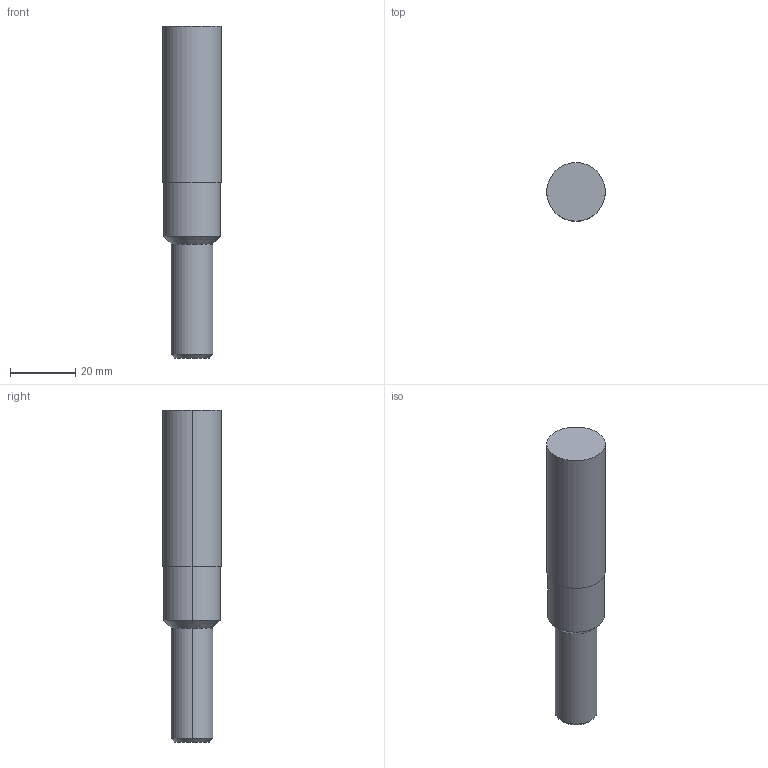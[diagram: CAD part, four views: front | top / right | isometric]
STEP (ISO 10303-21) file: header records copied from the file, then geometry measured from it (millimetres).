
FILE_DESCRIPTION(('STEP AP214'),'1');
FILE_NAME('cctmp_AEEE1EBD-B84C-4051-B621-C3D4C0716928_2020_10_01_09_38_02_0495..stp','2020-10-01T07:38:02',('Meusburger Georg GmbH & Co KG'),('CADClick - www.CADClick.com'),'Spatial InterOp 3D',' ','unknown authorization');
FILE_SCHEMA(('AUTOMOTIVE_DESIGN { 1 0 10303 214 1 1 1 1 }'));
Length unit declared in the file: millimetre
Products named in the file (1): WZG17123_16
Bounding box: 18 x 18 x 102 mm (x, y, z)
Volume: 21128 mm3; surface area: 5565.5 mm2
Topology: 1 solids, 1 shells, 13 faces, 24 edges, 14 vertices
Faces by surface type: cylinder 6, cone 4, plane 3
Entity records: 452 total; most frequent: DIRECTION 66, CARTESIAN_POINT 52, ORIENTED_EDGE 48, AXIS2_PLACEMENT_3D 28, EDGE_CURVE 24, STYLED_ITEM 14, PRESENTATION_STYLE_ASSIGNMENT 14, SURFACE_STYLE_USAGE 14
